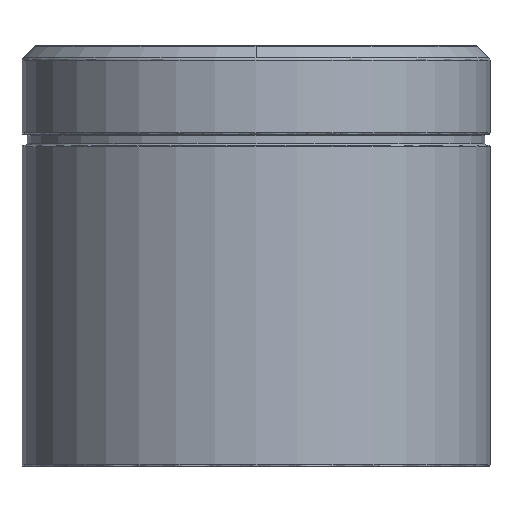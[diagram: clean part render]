
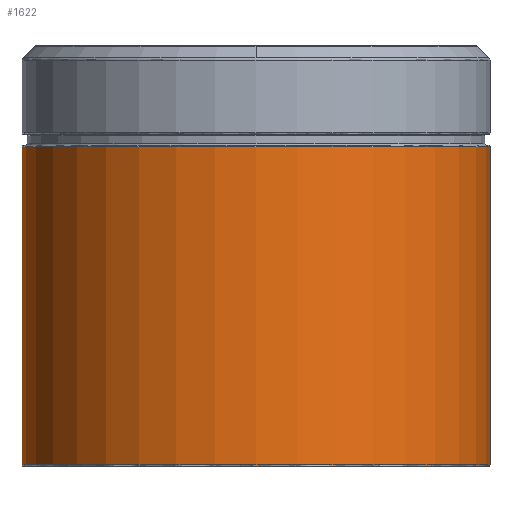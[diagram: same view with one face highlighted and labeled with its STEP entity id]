
A CAD part, front view. The second image highlights one B-rep face of the part: STEP entity #1622.
In plain terms, the highlighted cylindrical face has radius 31.7 mm (diameter 63.4 mm), a partial arc.
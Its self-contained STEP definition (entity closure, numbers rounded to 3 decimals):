
#275 = AXIS2_PLACEMENT_3D ( 'NONE', #475, #3325, #2463 ) ;
#352 = CARTESIAN_POINT ( 'NONE',  ( 31.7, 0., 56.5 ) ) ;
#475 = CARTESIAN_POINT ( 'NONE',  ( 0., 0., 0.2 ) ) ;
#904 = DIRECTION ( 'NONE',  ( 0., 0., -1. ) ) ;
#1065 = VECTOR ( 'NONE', #2053, 1000. ) ;
#1136 = VERTEX_POINT ( 'NONE', #2527 ) ;
#1158 = CIRCLE ( 'NONE', #1352, 31.7 ) ;
#1202 = CARTESIAN_POINT ( 'NONE',  ( 0., 0., 56.5 ) ) ;
#1292 = ORIENTED_EDGE ( 'NONE', *, *, #3603, .F. ) ;
#1333 = LINE ( 'NONE', #352, #1065 ) ;
#1352 = AXIS2_PLACEMENT_3D ( 'NONE', #3263, #1814, #2120 ) ;
#1396 = CYLINDRICAL_SURFACE ( 'NONE', #2153, 31.7 ) ;
#1446 = CARTESIAN_POINT ( 'NONE',  ( -31.7, 0., 56.5 ) ) ;
#1496 = DIRECTION ( 'NONE',  ( 0., 0., -1. ) ) ;
#1594 = VERTEX_POINT ( 'NONE', #2933 ) ;
#1622 = ADVANCED_FACE ( 'NONE', ( #3481 ), #1396, .T. ) ;
#1691 = LINE ( 'NONE', #1446, #1954 ) ;
#1734 = VERTEX_POINT ( 'NONE', #3292 ) ;
#1809 = CARTESIAN_POINT ( 'NONE',  ( 31.7, 0., 0.2 ) ) ;
#1814 = DIRECTION ( 'NONE',  ( 0., 0., -1. ) ) ;
#1954 = VECTOR ( 'NONE', #904, 1000. ) ;
#2053 = DIRECTION ( 'NONE',  ( 0., 0., -1. ) ) ;
#2120 = DIRECTION ( 'NONE',  ( -1., 0., 0. ) ) ;
#2145 = VERTEX_POINT ( 'NONE', #1809 ) ;
#2153 = AXIS2_PLACEMENT_3D ( 'NONE', #1202, #1496, #3565 ) ;
#2189 = EDGE_CURVE ( 'NONE', #1594, #1734, #1158, .T. ) ;
#2463 = DIRECTION ( 'NONE',  ( -1., 0., 0. ) ) ;
#2501 = EDGE_CURVE ( 'NONE', #1136, #2145, #3610, .T. ) ;
#2527 = CARTESIAN_POINT ( 'NONE',  ( -31.7, 0., 0.2 ) ) ;
#2874 = EDGE_LOOP ( 'NONE', ( #1292, #3549, #3268, #3687 ) ) ;
#2933 = CARTESIAN_POINT ( 'NONE',  ( 31.7, 0., 43.3 ) ) ;
#3263 = CARTESIAN_POINT ( 'NONE',  ( 0., 0., 43.3 ) ) ;
#3268 = ORIENTED_EDGE ( 'NONE', *, *, #3583, .T. ) ;
#3292 = CARTESIAN_POINT ( 'NONE',  ( -31.7, 0., 43.3 ) ) ;
#3325 = DIRECTION ( 'NONE',  ( 0., 0., 1. ) ) ;
#3481 = FACE_OUTER_BOUND ( 'NONE', #2874, .T. ) ;
#3549 = ORIENTED_EDGE ( 'NONE', *, *, #2189, .T. ) ;
#3565 = DIRECTION ( 'NONE',  ( -1., 0., 0. ) ) ;
#3583 = EDGE_CURVE ( 'NONE', #1734, #1136, #1691, .T. ) ;
#3603 = EDGE_CURVE ( 'NONE', #1594, #2145, #1333, .T. ) ;
#3610 = CIRCLE ( 'NONE', #275, 31.7 ) ;
#3687 = ORIENTED_EDGE ( 'NONE', *, *, #2501, .T. ) ;
